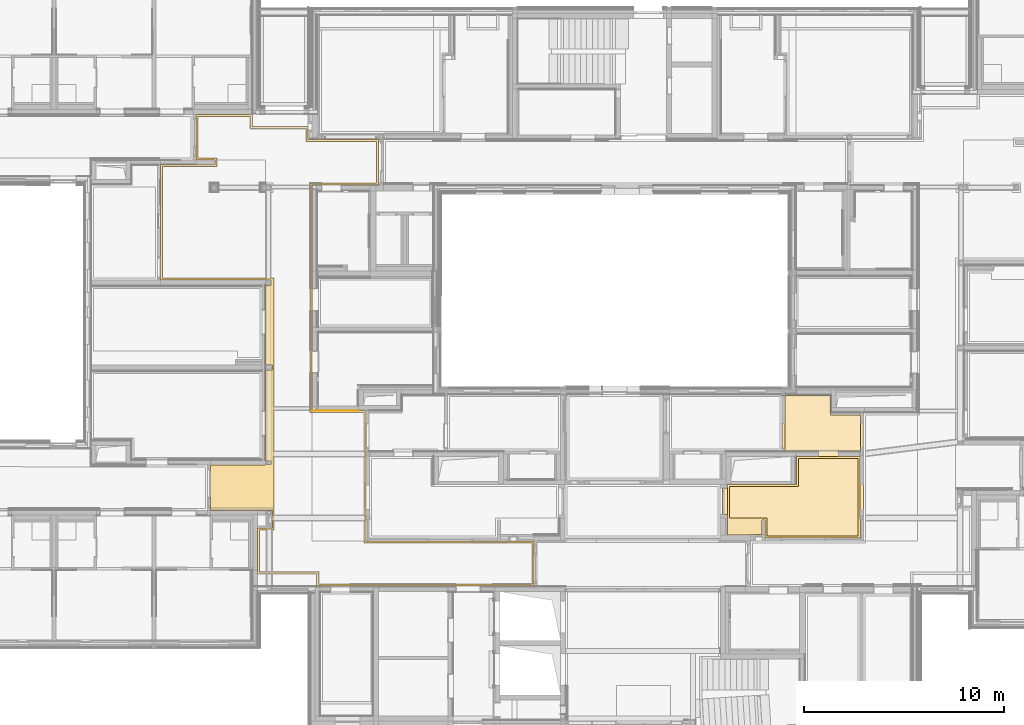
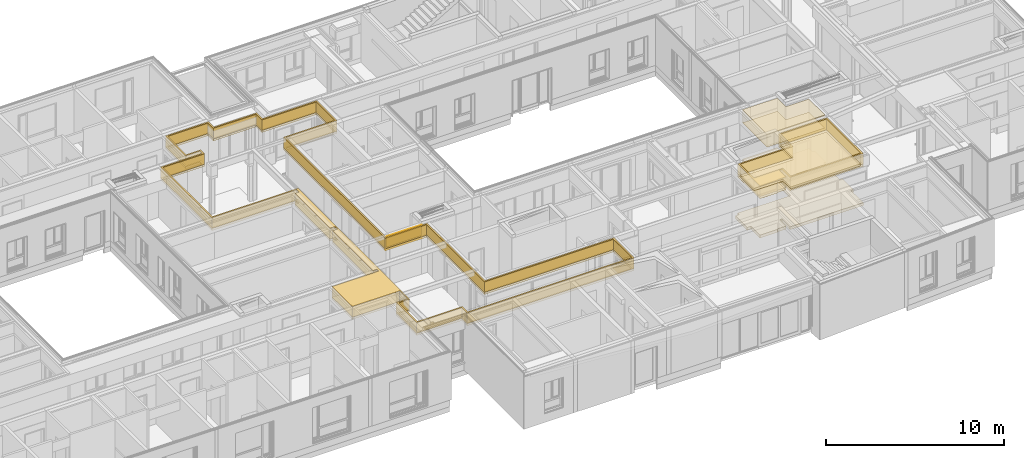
# One storey, part 169 of 207: 21 coverings.
"""IFC4 building model written with IfcOpenShell, lengths in metres."""

import ifcopenshell
import ifcopenshell.guid

model = None  # the IFC model being written
_history = None  # IfcOwnerHistory: only IFC2X3 demands one
_inside = {}  # id of a spatial element -> (the spatial element, [elements in it])
_under = {}  # id of a project, library or spatial element -> (it, [spatial elements below it])
_declared = {}  # id of a project -> (the project, [libraries it declares])
_typed = {}  # id of a type object -> (the type object, [elements of that type])
_made_of = {}  # id of a material, layer set ... -> (it, [elements and type objects made of it])


def new_model(schema):
    """Start an empty IFC model of exactly this schema.

    Asked for "IFC4X3", IfcOpenShell would pick the latest addendum, in which some entities
    have other attributes; the version numbers below select the first issue.
    IFC2X3 requires an IfcOwnerHistory on every rooted entity: one is made here for all.
    """
    global model, _history
    if schema == "IFC4X3":
        model = ifcopenshell.file(schema_version=(4, 3, 0, 0))
    else:
        model = ifcopenshell.file(schema=schema)
    _inside.clear()
    _under.clear()
    _declared.clear()
    _typed.clear()
    _made_of.clear()
    _history = None
    if model.schema == "IFC2X3":
        org = make("IfcOrganization", Name="unknown")
        user = make(
            "IfcPersonAndOrganization",
            ThePerson=make("IfcPerson", FamilyName="unknown"),
            TheOrganization=org,
        )
        app = make(
            "IfcApplication",
            ApplicationDeveloper=org,
            Version="unknown",
            ApplicationFullName="unknown",
            ApplicationIdentifier="unknown",
        )
        _history = make(
            "IfcOwnerHistory",
            OwningUser=user,
            OwningApplication=app,
            ChangeAction="ADDED",
            CreationDate=0,
        )
    return model


def make(cls, **values):
    """One entity of the class cls with the attributes given. An attribute that is None is left unset."""
    return model.create_entity(
        cls, **{name: value for name, value in values.items() if value is not None}
    )


def entity(cls, *values):
    """Any entity or typed value of the class cls, its attributes in the order of the schema. None: left unset."""
    e = model.create_entity(cls)
    for i, value in enumerate(values):
        if value is not None:
            e[i] = value
    return e


def rooted(cls, **values):
    """An entity with a GlobalId (a new one), such as an element, a storey or a relation."""
    return make(cls, GlobalId=ifcopenshell.guid.new(), OwnerHistory=_history, **values)


def si_unit(unit_type, name, prefix=None):
    """IfcSIUnit, for example si_unit("LENGTHUNIT", "METRE", prefix="MILLI")."""
    return make("IfcSIUnit", UnitType=unit_type, Prefix=prefix, Name=name)


def converted_unit(unit_type, name, factor, base, dimensions=None, offset=None):
    """IfcConversionBasedUnit, such as the inch: factor (a typed value) times the base unit."""
    return make(
        "IfcConversionBasedUnit"
        if offset is None
        else "IfcConversionBasedUnitWithOffset",
        ConversionOffset=offset,
        Dimensions=None
        if dimensions is None
        else entity("IfcDimensionalExponents", *dimensions),
        UnitType=unit_type,
        Name=name,
        ConversionFactor=make(
            "IfcMeasureWithUnit", ValueComponent=factor, UnitComponent=base
        ),
    )


def derived_unit(unit_type, elements):
    """IfcDerivedUnit: a product of units, each with its exponent."""
    return make(
        "IfcDerivedUnit",
        Elements=[
            make("IfcDerivedUnitElement", Unit=unit, Exponent=power)
            for unit, power in elements
        ],
        UnitType=unit_type,
    )


def assignment(units):
    """IfcUnitAssignment: the units of a project."""
    return None if units is None else make("IfcUnitAssignment", Units=units)


def point(xyz):
    """IfcCartesianPoint."""
    return None if xyz is None else make("IfcCartesianPoint", Coordinates=xyz)


def direction(xyz):
    """IfcDirection."""
    return None if xyz is None else make("IfcDirection", DirectionRatios=xyz)


def frame(location, z_axis=None, x_axis=None):
    """IfcAxis2Placement3D, a coordinate frame: its origin and axes. An axis left out is left unset."""
    return make(
        "IfcAxis2Placement3D",
        Location=point(location),
        Axis=direction(z_axis),
        RefDirection=direction(x_axis),
    )


def frame_2d(location, x_axis=None):
    """IfcAxis2Placement2D, a coordinate frame in the plane: its origin and x axis."""
    return make(
        "IfcAxis2Placement2D", Location=point(location), RefDirection=direction(x_axis)
    )


def origin():
    """The frame at (0, 0, 0) with its axes left unset."""
    return frame((0.0, 0.0, 0.0))


def place(relative_to, where):
    """IfcLocalPlacement: puts the frame where relative to a parent placement (None: the world)."""
    return make(
        "IfcLocalPlacement", PlacementRelTo=relative_to, RelativePlacement=where
    )


def context(
    kind, dimensions, precision=None, world=None, true_north=None, identifier=None
):
    """IfcGeometricRepresentationContext, for example the 3D "Model" context."""
    return make(
        "IfcGeometricRepresentationContext",
        ContextIdentifier=identifier,
        ContextType=kind,
        CoordinateSpaceDimension=dimensions,
        Precision=precision,
        WorldCoordinateSystem=world,
        TrueNorth=true_north,
    )


def subcontext(parent, identifier, kind, view, scale=None):
    """IfcGeometricRepresentationSubContext, for example "Body" below "Model"."""
    return make(
        "IfcGeometricRepresentationSubContext",
        ContextIdentifier=identifier,
        ContextType=kind,
        ParentContext=parent,
        TargetScale=scale,
        TargetView=view,
    )


def project(units=None, contexts=None):
    """IfcProject with its units and contexts."""
    return rooted(
        "IfcProject",
        Name="project",
        RepresentationContexts=contexts,
        UnitsInContext=assignment(units),
    )


def spatial(cls, under=None, at=None, **own):
    """A site, building, storey or space (cls), placed at a placement, below another one or the project."""
    s = rooted(cls, ObjectPlacement=at, **own)
    if under is not None:
        _under.setdefault(under.id(), (under, []))[1].append(s)
    return s


def polyline(points):
    """IfcPolyline through the points."""
    return make("IfcPolyline", Points=[point(p) for p in points])


def profile(cls, at=None, kind="AREA", **sizes):
    """A parametric profile (cls). Its sizes go by their IFC names, for example OverallWidth=200.0."""
    return make(cls, ProfileType=kind, Position=at, **sizes)


def rectangle(**sizes):
    """IfcRectangleProfileDef."""
    return profile("IfcRectangleProfileDef", **sizes)


def outline(outer, holes=None, kind="AREA"):
    """IfcArbitraryClosedProfileDef: a profile drawn as a closed curve; with holes, ...WithVoids."""
    if holes is None:
        return make("IfcArbitraryClosedProfileDef", ProfileType=kind, OuterCurve=outer)
    return make(
        "IfcArbitraryProfileDefWithVoids",
        ProfileType=kind,
        OuterCurve=outer,
        InnerCurves=holes,
    )


def extrude(swept, where, along, depth):
    """IfcExtrudedAreaSolid: the profile swept, set in the frame where, extruded along a direction by depth."""
    return make(
        "IfcExtrudedAreaSolid",
        SweptArea=swept,
        Position=where,
        ExtrudedDirection=direction(along),
        Depth=depth,
    )


def shape(context_of_items, identifier, shape_type, items):
    """IfcShapeRepresentation: the items that make up one representation, for example the "Body"."""
    return make(
        "IfcShapeRepresentation",
        ContextOfItems=context_of_items,
        RepresentationIdentifier=identifier,
        RepresentationType=shape_type,
        Items=items,
    )


def material(Name=None, Category=None):
    """IfcMaterial."""
    return make("IfcMaterial", Name=Name, Category=Category)


def layer(
    of_material, thickness, ventilated=None, Name=None, Category=None, Priority=None
):
    """IfcMaterialLayer: one layer of a wall or slab, of a material (None: an air gap)."""
    return make(
        "IfcMaterialLayer",
        Material=of_material,
        LayerThickness=thickness,
        IsVentilated=ventilated,
        Name=Name,
        Category=Category,
        Priority=Priority,
    )


def layer_set(layers, Name=None):
    """IfcMaterialLayerSet."""
    return make("IfcMaterialLayerSet", MaterialLayers=layers, LayerSetName=Name)


def layer_usage(for_layer_set, set_direction, sense, offset, extent=None):
    """IfcMaterialLayerSetUsage: how a layer set lies in its element."""
    return make(
        "IfcMaterialLayerSetUsage",
        ForLayerSet=for_layer_set,
        LayerSetDirection=set_direction,
        DirectionSense=sense,
        OffsetFromReferenceLine=offset,
        ReferenceExtent=extent,
    )


def made_of(thing, what):
    """Note that an element or type object is made of a material, layer set ...; save() writes the relation."""
    if what is not None:
        _made_of.setdefault(what.id(), (what, []))[1].append(thing)
    return thing


def element(
    cls,
    number,
    at=None,
    inside=None,
    cuts=None,
    type_object=None,
    material=None,
    context=None,
    identifier="Body",
    shape_type=None,
    held_by="IfcProductDefinitionShape",
    body=None,
    shapes=None,
    **own,
):
    """One element of the class cls, such as IfcWall. Its Tag is "e" and its number.

    at: its placement. inside: the storey or other place that contains it. cuts: it is an
    opening in that element (IfcRelVoidsElement). A single representation is given by context,
    identifier, shape_type and body (its items); several are given by shapes. held_by: the class
    of the entity that holds the representations. save() writes the other relations.
    """
    e = rooted(cls, Tag="e%d" % number, ObjectPlacement=at, **own)
    if body is not None:
        shapes = [shape(context, identifier, shape_type, body)]
    if shapes is not None:
        e.Representation = make(held_by, Representations=shapes)
    if inside is not None:
        _inside.setdefault(inside.id(), (inside, []))[1].append(e)
    if cuts is not None:
        rooted(
            "IfcRelVoidsElement", RelatingBuildingElement=cuts, RelatedOpeningElement=e
        )
    if type_object is not None:
        _typed.setdefault(type_object.id(), (type_object, []))[1].append(e)
    return made_of(e, material)


def aggregate(whole, parts):
    """IfcRelAggregates: a whole, such as a stair, and the parts it consists of."""
    return rooted("IfcRelAggregates", RelatingObject=whole, RelatedObjects=parts)


def save(model, path):
    """Write the relations noted so far, then the file.

    IfcRelAggregates (storeys below a building ...), IfcRelContainedInSpatialStructure (elements
    in a storey), IfcRelDefinesByType, IfcRelAssociatesMaterial and IfcRelDeclares: one each for
    every whole, place, type object, material and project.
    """
    for whole, parts in _under.values():
        aggregate(whole, parts)
    for where, things in _inside.values():
        rooted(
            "IfcRelContainedInSpatialStructure",
            RelatedElements=things,
            RelatingStructure=where,
        )
    for kind, things in _typed.values():
        rooted("IfcRelDefinesByType", RelatedObjects=things, RelatingType=kind)
    for what, things in _made_of.values():
        rooted("IfcRelAssociatesMaterial", RelatedObjects=things, RelatingMaterial=what)
    for by, libraries in _declared.values():
        rooted("IfcRelDeclares", RelatingContext=by, RelatedDefinitions=libraries)
    model.write(path)


model = new_model("IFC4")

# Units and contexts
model_context = context("Model", 3, precision=1e-05, world=origin())
body_context = subcontext(model_context, "Body", "Model", "MODEL_VIEW")
ifc_project = project(units=[si_unit("LENGTHUNIT", "METRE"), si_unit("AREAUNIT", "SQUARE_METRE"), si_unit("VOLUMEUNIT", "CUBIC_METRE"), si_unit("MASSUNIT", "GRAM", prefix="KILO"), converted_unit("PLANEANGLEUNIT", "DEGREE", entity("IfcPlaneAngleMeasure", 0.0174532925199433), si_unit("PLANEANGLEUNIT", "RADIAN"), dimensions=[0, 0, 0, 0, 0, 0, 0]), derived_unit("THERMALTRANSMITTANCEUNIT", [(si_unit("POWERUNIT", "WATT"), 1), (si_unit("THERMODYNAMICTEMPERATUREUNIT", "KELVIN"), -1), (si_unit("LENGTHUNIT", "METRE"), -2)]), derived_unit("VOLUMETRICFLOWRATEUNIT", [(si_unit("LENGTHUNIT", "METRE"), 3), (converted_unit("TIMEUNIT", "hour", entity("IfcTimeMeasure", 3600.0), si_unit("TIMEUNIT", "SECOND"), dimensions=[0, 0, 1, 0, 0, 0, 0]), -1), (si_unit("LENGTHUNIT", "METRE"), -1)])], contexts=[model_context])

# Site, building, storey, space
site_placement = place(None, origin())
site = spatial("IfcSite", under=ifc_project, at=site_placement, Name="Psychiatrie Neubau Wunstorf", CompositionType="ELEMENT")
building_placement = place(site_placement, origin())
building = spatial("IfcBuilding", under=site, at=building_placement, Name="Neubau H2 Stationsgebäude", CompositionType="ELEMENT")
storey_placement = place(building_placement, frame((0.0, 0.0, -0.2)))
storey = spatial("IfcBuildingStorey", under=building, at=storey_placement, Name="H2 Ebene 0", CompositionType="ELEMENT", Elevation=-0.2)
space_1_placement = place(storey_placement, frame((32.083, 0.549, 0.0)))
space_1 = spatial("IfcSpace", under=storey, at=space_1_placement, Name="WUN-H2-E00-F03", CompositionType="ELEMENT")

# Coverings
ifc_material_1 = material()
ifc_layer_1 = layer(ifc_material_1, 0.036)
ifc_layer_set_1 = layer_set([ifc_layer_1])
ifc_layer_usage_1 = layer_usage(ifc_layer_set_1, "AXIS3", "POSITIVE", 0.0)
covering_1_placement = place(space_1_placement, frame((-1.76615095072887, 0.0, 3.6)))
element("IfcCovering", 1, at=covering_1_placement, inside=space_1, material=ifc_layer_usage_1, Name="Gipsfaserplatten 2-lagig (BSK)", PredefinedType="CEILING", context=body_context, shape_type="SweptSolid", body=[
    extrude(outline(polyline([(4.94765095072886, 22.8675003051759), (7.88315095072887, 22.8675003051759), (7.88315095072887, 23.4684996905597), (18.5478509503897, 23.4684996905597), (18.5478509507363, 21.4000003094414), (10.1580859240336, 21.3999990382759), (10.1580859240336, 21.3000003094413), (18.6478509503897, 21.3000003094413), (18.6478509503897, 23.5685000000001), (7.78315095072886, 23.5685000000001), (7.78315095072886, 22.9675003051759), (4.84765095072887, 22.9675003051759), (4.84765095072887, 20.666750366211), (5.58414597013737, 20.666750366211), (5.58414597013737, 19.786750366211), (2.50165095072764, 19.786750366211), (2.50165095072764, 17.5055000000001), (5.25315095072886, 17.5055000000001), (5.25339557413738, 17.5005014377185), (5.51839059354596, 17.5005014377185), (5.51839059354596, 17.3205014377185), (5.25339557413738, 17.3205014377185), (5.25315095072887, 12.7799424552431), (5.58415095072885, 12.7799424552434), (5.58415095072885, 12.5079424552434), (5.25315095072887, 12.5079424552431), (5.25315095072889, 8.55700090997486), (5.51915095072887, 8.55700090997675), (5.51915095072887, 8.28500090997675), (0.0, 8.28500090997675), (0.0, 2.51350000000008), (2.71615095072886, 2.51350000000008), (2.71615095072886, 2.28150000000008), (1.76615095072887, 2.28150000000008), (1.76615095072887, 0.0), (4.57215095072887, 0.0), (4.57215095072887, 0.00349633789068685), (4.58315095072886, 0.00349633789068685), (4.58315095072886, 0.602500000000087), (7.36215095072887, 0.602500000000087), (7.36215095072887, 1.25350095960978), (10.8911509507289, 1.25350095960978), (10.8911509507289, 3.53150197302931), (7.56565095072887, 3.53150197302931), (7.56565095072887, 14.7935037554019), (10.2580859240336, 14.7950037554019), (10.2580859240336, 21.2999990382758), (10.1580859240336, 21.3000003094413), (10.1580859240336, 14.8950037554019), (7.46565095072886, 14.8935037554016), (7.46565095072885, 3.43150197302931), (10.7911509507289, 3.43150197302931), (10.7911509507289, 1.35350095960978), (7.26215095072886, 1.3535009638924), (7.26215095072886, 0.702500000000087), (4.48315095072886, 0.702500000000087), (4.48315095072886, 0.10000000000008), (1.86615095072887, 0.1), (1.86615095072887, 2.18149999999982), (2.81615095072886, 2.1814999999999), (2.81615095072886, 2.61151695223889), (0.1, 2.61151695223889), (0.1, 8.18500090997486), (5.66915095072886, 8.18500090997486), (5.66915095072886, 20.766750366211), (4.94765095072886, 20.766750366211), (4.94765095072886, 22.8675003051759)])), frame((0.0, 23.5685000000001, 0.0), z_axis=(0.0, 0.0, -1.0), x_axis=(1.0, 0.0, 0.0)), (0.0, 0.0, 1.0), 0.036),
])
ifc_material_2 = material(Name="Installationshöhe")
ifc_layer_2 = layer(ifc_material_2, 0.714)
ifc_layer_set_2 = layer_set([ifc_layer_2])
ifc_layer_usage_2 = layer_usage(ifc_layer_set_2, "AXIS3", "POSITIVE", 0.0)
covering_2_placement = place(space_1_placement, frame((-1.76615095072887, 0.0, 3.564)))
element("IfcCovering", 2, at=covering_2_placement, inside=space_1, material=ifc_layer_usage_2, Name="Gipsfaserplatten 2-lagig (BSK)", PredefinedType="CEILING", context=body_context, shape_type="SweptSolid", body=[
    extrude(outline(polyline([(4.94765095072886, 22.8675003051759), (7.88315095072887, 22.8675003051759), (7.88315095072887, 23.4684996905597), (18.5478509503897, 23.4684996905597), (18.5478509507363, 21.4000003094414), (10.1580859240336, 21.3999990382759), (10.1580859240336, 21.3000003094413), (18.6478509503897, 21.3000003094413), (18.6478509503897, 23.5685000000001), (7.78315095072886, 23.5685000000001), (7.78315095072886, 22.9675003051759), (4.84765095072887, 22.9675003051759), (4.84765095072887, 20.666750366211), (5.58414597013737, 20.666750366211), (5.58414597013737, 19.786750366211), (2.50165095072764, 19.786750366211), (2.50165095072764, 17.5055000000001), (5.25315095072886, 17.5055000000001), (5.25339557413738, 17.5005014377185), (5.51839059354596, 17.5005014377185), (5.51839059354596, 17.3205014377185), (5.25339557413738, 17.3205014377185), (5.25315095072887, 12.7799424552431), (5.58415095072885, 12.7799424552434), (5.58415095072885, 12.5079424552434), (5.25315095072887, 12.5079424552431), (5.25315095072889, 8.55700090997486), (5.51915095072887, 8.55700090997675), (5.51915095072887, 8.28500090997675), (0.0, 8.28500090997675), (0.0, 2.51350000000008), (2.71615095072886, 2.51350000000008), (2.71615095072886, 2.28150000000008), (1.76615095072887, 2.28150000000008), (1.76615095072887, 0.0), (4.57215095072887, 0.0), (4.57215095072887, 0.00349633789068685), (4.58315095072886, 0.00349633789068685), (4.58315095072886, 0.602500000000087), (7.36215095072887, 0.602500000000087), (7.36215095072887, 1.25350095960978), (10.8911509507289, 1.25350095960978), (10.8911509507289, 3.53150197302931), (7.56565095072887, 3.53150197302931), (7.56565095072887, 14.7935037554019), (10.2580859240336, 14.7950037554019), (10.2580859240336, 21.2999990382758), (10.1580859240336, 21.3000003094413), (10.1580859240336, 14.8950037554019), (7.46565095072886, 14.8935037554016), (7.46565095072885, 3.43150197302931), (10.7911509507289, 3.43150197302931), (10.7911509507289, 1.35350095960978), (7.26215095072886, 1.3535009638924), (7.26215095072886, 0.702500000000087), (4.48315095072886, 0.702500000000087), (4.48315095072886, 0.10000000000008), (1.86615095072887, 0.1), (1.86615095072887, 2.18149999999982), (2.81615095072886, 2.1814999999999), (2.81615095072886, 2.61151695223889), (0.1, 2.61151695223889), (0.1, 8.18500090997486), (5.66915095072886, 8.18500090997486), (5.66915095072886, 20.766750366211), (4.94765095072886, 20.766750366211), (4.94765095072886, 22.8675003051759)])), frame((0.0, 23.5685000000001, 0.0), z_axis=(0.0, 0.0, -1.0), x_axis=(1.0, 0.0, 0.0)), (0.0, 0.0, 1.0), 0.714),
])
ifc_material_3 = material(Name="A1")
ifc_layer_3 = layer(ifc_material_3, 0.15)
ifc_layer_set_3 = layer_set([ifc_layer_3])
ifc_layer_usage_3 = layer_usage(ifc_layer_set_3, "AXIS3", "POSITIVE", 0.0)
covering_3_placement = place(space_1_placement, frame((-1.76615095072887, 0.0, 2.85)))
element("IfcCovering", 3, at=covering_3_placement, inside=space_1, material=ifc_layer_usage_3, Name="Gipsfaserplatten 2-lagig (BSK)", PredefinedType="CEILING", context=body_context, shape_type="SweptSolid", body=[
    extrude(outline(polyline([(4.94765095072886, 22.8675003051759), (7.88315095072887, 22.8675003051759), (7.88315095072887, 23.4684996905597), (18.5478509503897, 23.4684996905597), (18.5478509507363, 21.4000003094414), (10.1580859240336, 21.3999990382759), (10.1580859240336, 21.3000003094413), (18.6478509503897, 21.3000003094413), (18.6478509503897, 23.5685000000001), (7.78315095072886, 23.5685000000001), (7.78315095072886, 22.9675003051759), (4.84765095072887, 22.9675003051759), (4.84765095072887, 20.666750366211), (5.58414597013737, 20.666750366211), (5.58414597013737, 19.786750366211), (2.50165095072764, 19.786750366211), (2.50165095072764, 17.5055000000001), (5.25315095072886, 17.5055000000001), (5.25339557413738, 17.5005014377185), (5.51839059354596, 17.5005014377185), (5.51839059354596, 17.3205014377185), (5.25339557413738, 17.3205014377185), (5.25315095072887, 12.7799424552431), (5.58415095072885, 12.7799424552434), (5.58415095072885, 12.5079424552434), (5.25315095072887, 12.5079424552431), (5.25315095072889, 8.55700090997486), (5.51915095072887, 8.55700090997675), (5.51915095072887, 8.28500090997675), (0.0, 8.28500090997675), (0.0, 2.51350000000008), (2.71615095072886, 2.51350000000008), (2.71615095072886, 2.28150000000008), (1.76615095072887, 2.28150000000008), (1.76615095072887, 0.0), (4.57215095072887, 0.0), (4.57215095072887, 0.00349633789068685), (4.58315095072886, 0.00349633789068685), (4.58315095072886, 0.602500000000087), (7.36215095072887, 0.602500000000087), (7.36215095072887, 1.25350095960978), (10.8911509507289, 1.25350095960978), (10.8911509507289, 3.53150197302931), (7.56565095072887, 3.53150197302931), (7.56565095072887, 14.7935037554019), (10.2580859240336, 14.7950037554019), (10.2580859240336, 21.2999990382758), (10.1580859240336, 21.3000003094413), (10.1580859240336, 14.8950037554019), (7.46565095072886, 14.8935037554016), (7.46565095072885, 3.43150197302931), (10.7911509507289, 3.43150197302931), (10.7911509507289, 1.35350095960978), (7.26215095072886, 1.3535009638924), (7.26215095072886, 0.702500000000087), (4.48315095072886, 0.702500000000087), (4.48315095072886, 0.10000000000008), (1.86615095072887, 0.1), (1.86615095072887, 2.18149999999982), (2.81615095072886, 2.1814999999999), (2.81615095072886, 2.61151695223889), (0.1, 2.61151695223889), (0.1, 8.18500090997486), (5.66915095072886, 8.18500090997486), (5.66915095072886, 20.766750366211), (4.94765095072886, 20.766750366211), (4.94765095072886, 22.8675003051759)])), frame((0.0, 23.5685000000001, 0.0), z_axis=(0.0, 0.0, -1.0), x_axis=(1.0, 0.0, 0.0)), (0.0, 0.0, 1.0), 0.15),
])

# Space
space_2_placement = place(storey_placement, frame((58.625000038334, 2.96762600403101, 0.0)))
space_2 = spatial("IfcSpace", under=storey, at=space_2_placement, Name="WUN-H2-E00-063", CompositionType="ELEMENT")

# Coverings
ifc_material_4 = material(Name="Ku1")
ifc_layer_4 = layer(ifc_material_4, 0.2)
ifc_layer_set_4 = layer_set([ifc_layer_4])
ifc_layer_usage_4 = layer_usage(ifc_layer_set_4, "AXIS3", "POSITIVE", 0.0)
covering_4_placement = place(space_2_placement, frame((-0.249999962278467, 0.0, 0.0)))
element("IfcCovering", 4, at=covering_4_placement, inside=space_2, material=ifc_layer_usage_4, Name="PVC Bahnenware Holzoptik", PredefinedType="FLOORING", context=body_context, shape_type="SweptSolid", body=[
    extrude(rectangle(XDim=0.272, YDim=1.01, at=frame_2d((-0.505, 0.136), x_axis=(0.0, 1.0))), frame((5.80999993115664, 4.05537368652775, 0.0), z_axis=(0.0, 0.0, 1.0), x_axis=(1.0, 0.0, 0.0)), (0.0, 0.0, 1.0), 0.2),
    extrude(rectangle(XDim=0.250000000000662, YDim=1.32502470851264, at=frame_2d((0.125000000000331, 0.66251235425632), x_axis=(1.0, 0.0))), frame((0.0, 1.15485125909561, 0.0), z_axis=(0.0, 0.0, 1.0), x_axis=(1.0, 0.0, 0.0)), (0.0, 0.0, 1.0), 0.2),
    extrude(rectangle(XDim=0.175, YDim=1.26, at=frame_2d((0.0875, 0.63), x_axis=(1.0, 0.0))), frame((6.8749962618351, 1.38987368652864, 0.0), z_axis=(0.0, 0.0, 1.0), x_axis=(1.0, 0.0, 0.0)), (0.0, 0.0, 1.0), 0.2),
    extrude(outline(polyline([(6.61999629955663, 1.08237094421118), (6.62499629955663, 1.08237094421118), (6.62499629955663, 4.05537180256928), (3.45499960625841, 4.05537368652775), (3.45499960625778, 2.64987368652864), (0.0, 2.64990497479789), (0.0, 0.139904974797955), (1.14683874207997, 0.140003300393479), (1.14688129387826, 0.17500329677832), (1.72499996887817, 0.174883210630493), (1.72499996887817, 0.9), (1.87499996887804, 0.9), (1.87499996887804, 0.0), (6.64999629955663, 0.0), (6.65007963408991, 0.902370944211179), (6.61999629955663, 0.902370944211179), (6.61999629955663, 1.08237094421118)])), frame((0.249999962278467, 0.0, 0.0), z_axis=(0.0, 0.0, 1.0), x_axis=(1.0, 0.0, 0.0)), (0.0, 0.0, 1.0), 0.2),
])
ifc_material_5 = material()
ifc_layer_5 = layer(ifc_material_5, 0.036)
ifc_layer_set_5 = layer_set([ifc_layer_5])
ifc_layer_usage_5 = layer_usage(ifc_layer_set_5, "AXIS3", "POSITIVE", 0.0)
covering_5_placement = place(space_2_placement, frame((0.100000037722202, 0.0999699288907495, 3.6)))
element("IfcCovering", 5, at=covering_5_placement, inside=space_2, material=ifc_layer_usage_5, Name="Gipsfaserplatten 2-lagig (BSK)", PredefinedType="CEILING", context=body_context, shape_type="SweptSolid", body=[
    extrude(outline(polyline([(6.42449259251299, 3.85538799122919), (1.87449882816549, 3.855403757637), (1.87503364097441, 2.96559333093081), (0.0, 2.96559333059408), (0.0, 1.4055031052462), (3.45499956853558, 1.40549999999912), (3.45499956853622, 0.0), (6.42499626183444, 1.61886599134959e-05), (6.42449259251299, 3.85538799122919)])), frame((0.0, 3.855403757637, 0.0), z_axis=(0.0, 0.0, -1.0), x_axis=(1.0, 0.0, 0.0)), (0.0, 0.0, 1.0), 0.036),
])
ifc_material_6 = material(Name="Installationshöhe")
ifc_layer_6 = layer(ifc_material_6, 0.714)
ifc_layer_set_6 = layer_set([ifc_layer_6])
ifc_layer_usage_6 = layer_usage(ifc_layer_set_6, "AXIS3", "POSITIVE", 0.0)
covering_6_placement = place(space_2_placement, frame((0.100000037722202, 0.0999699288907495, 3.564)))
element("IfcCovering", 6, at=covering_6_placement, inside=space_2, material=ifc_layer_usage_6, Name="Gipsfaserplatten 2-lagig (BSK)", PredefinedType="CEILING", context=body_context, shape_type="SweptSolid", body=[
    extrude(outline(polyline([(6.42449259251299, 3.85538799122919), (1.87449882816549, 3.855403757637), (1.87503364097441, 2.96559333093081), (0.0, 2.96559333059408), (0.0, 1.4055031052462), (3.45499956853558, 1.40549999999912), (3.45499956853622, 0.0), (6.42499626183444, 1.61886599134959e-05), (6.42449259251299, 3.85538799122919)])), frame((0.0, 3.855403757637, 0.0), z_axis=(0.0, 0.0, -1.0), x_axis=(1.0, 0.0, 0.0)), (0.0, 0.0, 1.0), 0.714),
])
ifc_material_7 = material(Name="Aa")
ifc_layer_7 = layer(ifc_material_7, 0.15)
ifc_layer_set_7 = layer_set([ifc_layer_7])
ifc_layer_usage_7 = layer_usage(ifc_layer_set_7, "AXIS3", "POSITIVE", 0.0)
covering_7_placement = place(space_2_placement, frame((0.100000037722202, 0.0999699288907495, 2.85)))
element("IfcCovering", 7, at=covering_7_placement, inside=space_2, material=ifc_layer_usage_7, Name="Gipsfaserplatten 2-lagig (BSK)", PredefinedType="CEILING", context=body_context, shape_type="SweptSolid", body=[
    extrude(outline(polyline([(6.42449259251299, 3.85538799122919), (1.87449882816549, 3.855403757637), (1.87503364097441, 2.96559333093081), (0.0, 2.96559333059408), (0.0, 1.4055031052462), (3.45499956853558, 1.40549999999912), (3.45499956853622, 0.0), (6.42499626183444, 1.61886599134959e-05), (6.42449259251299, 3.85538799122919)])), frame((0.0, 3.855403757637, 0.0), z_axis=(0.0, 0.0, -1.0), x_axis=(1.0, 0.0, 0.0)), (0.0, 0.0, 1.0), 0.15),
])
ifc_material_8 = material(Name="D1")
ifc_layer_8 = layer(ifc_material_8, 0.001)
ifc_layer_set_8 = layer_set([ifc_layer_8])
ifc_layer_usage_8 = layer_usage(ifc_layer_set_8, "AXIS3", "POSITIVE", 0.0)
covering_8_placement = place(space_2_placement, frame((0.100000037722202, 0.0999699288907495, 2.7)))
element("IfcCovering", 8, at=covering_8_placement, inside=space_2, material=ifc_layer_usage_8, Name="Gipsfaserplatten 2-lagig (BSK)", PredefinedType="CEILING", context=body_context, shape_type="SweptSolid", body=[
    extrude(outline(polyline([(6.42449259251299, 3.85538799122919), (1.87449882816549, 3.855403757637), (1.87503364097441, 2.96559333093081), (0.0, 2.96559333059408), (0.0, 1.4055031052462), (3.45499956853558, 1.40549999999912), (3.45499956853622, 0.0), (6.42499626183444, 1.61886599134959e-05), (6.42449259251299, 3.85538799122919)])), frame((0.0, 3.855403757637, 0.0), z_axis=(0.0, 0.0, -1.0), x_axis=(1.0, 0.0, 0.0)), (0.0, 0.0, 1.0), 0.001),
])
ifc_material_9 = material()
ifc_layer_9 = layer(ifc_material_9, 0.036)
ifc_layer_set_9 = layer_set([ifc_layer_9])
ifc_layer_usage_9 = layer_usage(ifc_layer_set_9, "AXIS3", "POSITIVE", 0.0)
covering_9_placement = place(space_2_placement, frame((0.0, 0.0, 3.6)))
element("IfcCovering", 9, at=covering_9_placement, inside=space_2, material=ifc_layer_usage_9, Name="Gipsfaserplatten 2-lagig (BSK)", PredefinedType="CEILING", context=body_context, shape_type="SweptSolid", body=[
    extrude(outline(polyline([(6.62499629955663, 2.97300274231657), (6.61999629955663, 2.97300274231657), (6.61999629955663, 3.15300274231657), (6.65007963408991, 3.15300274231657), (6.64999629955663, 4.05537368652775), (1.87499996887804, 4.05537368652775), (1.87499996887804, 3.15537368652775), (1.72499996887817, 3.15537368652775), (1.72499996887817, 3.88049047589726), (1.14688129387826, 3.88037038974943), (1.14683874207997, 3.91537038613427), (0.0, 3.9154687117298), (0.0, 1.40546871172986), (3.45499960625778, 1.40549999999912), (3.45499960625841, 0.0), (6.62499629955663, 1.88395847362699e-06), (6.62499629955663, 2.97300274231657)]), holes=[polyline([(1.97449886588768, 3.955403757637), (6.52449263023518, 3.95538799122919), (6.52499629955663, 0.100016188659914), (3.55499960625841, 0.1), (3.55499960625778, 1.50549999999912), (0.100000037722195, 1.5055031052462), (0.100000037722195, 3.06559333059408), (1.97503367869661, 3.06559333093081), (1.97449886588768, 3.955403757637)])]), frame((0.0, 4.05537368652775, 0.0), z_axis=(0.0, 0.0, -1.0), x_axis=(1.0, 0.0, 0.0)), (0.0, 0.0, 1.0), 0.036),
])
ifc_material_10 = material(Name="Installationshöhe")
ifc_layer_10 = layer(ifc_material_10, 0.714)
ifc_layer_set_10 = layer_set([ifc_layer_10])
ifc_layer_usage_10 = layer_usage(ifc_layer_set_10, "AXIS3", "POSITIVE", 0.0)
covering_10_placement = place(space_2_placement, frame((0.0, 0.0, 3.564)))
element("IfcCovering", 10, at=covering_10_placement, inside=space_2, material=ifc_layer_usage_10, Name="Gipsfaserplatten 2-lagig (BSK)", PredefinedType="CEILING", context=body_context, shape_type="SweptSolid", body=[
    extrude(outline(polyline([(6.62499629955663, 2.97300274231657), (6.61999629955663, 2.97300274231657), (6.61999629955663, 3.15300274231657), (6.65007963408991, 3.15300274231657), (6.64999629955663, 4.05537368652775), (1.87499996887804, 4.05537368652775), (1.87499996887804, 3.15537368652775), (1.72499996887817, 3.15537368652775), (1.72499996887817, 3.88049047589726), (1.14688129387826, 3.88037038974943), (1.14683874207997, 3.91537038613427), (0.0, 3.9154687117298), (0.0, 1.40546871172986), (3.45499960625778, 1.40549999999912), (3.45499960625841, 0.0), (6.62499629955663, 1.88395847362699e-06), (6.62499629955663, 2.97300274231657)]), holes=[polyline([(1.97449886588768, 3.955403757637), (6.52449263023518, 3.95538799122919), (6.52499629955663, 0.100016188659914), (3.55499960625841, 0.1), (3.55499960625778, 1.50549999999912), (0.100000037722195, 1.5055031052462), (0.100000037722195, 3.06559333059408), (1.97503367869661, 3.06559333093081), (1.97449886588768, 3.955403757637)])]), frame((0.0, 4.05537368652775, 0.0), z_axis=(0.0, 0.0, -1.0), x_axis=(1.0, 0.0, 0.0)), (0.0, 0.0, 1.0), 0.714),
])
ifc_material_11 = material(Name="A1")
ifc_layer_11 = layer(ifc_material_11, 0.15)
ifc_layer_set_11 = layer_set([ifc_layer_11])
ifc_layer_usage_11 = layer_usage(ifc_layer_set_11, "AXIS3", "POSITIVE", 0.0)
covering_11_placement = place(space_2_placement, frame((0.0, 0.0, 2.85)))
element("IfcCovering", 11, at=covering_11_placement, inside=space_2, material=ifc_layer_usage_11, Name="Gipsfaserplatten 2-lagig (BSK)", PredefinedType="CEILING", context=body_context, shape_type="SweptSolid", body=[
    extrude(outline(polyline([(6.62499629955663, 2.97300274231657), (6.61999629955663, 2.97300274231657), (6.61999629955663, 3.15300274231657), (6.65007963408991, 3.15300274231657), (6.64999629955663, 4.05537368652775), (1.87499996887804, 4.05537368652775), (1.87499996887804, 3.15537368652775), (1.72499996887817, 3.15537368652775), (1.72499996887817, 3.88049047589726), (1.14688129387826, 3.88037038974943), (1.14683874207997, 3.91537038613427), (0.0, 3.9154687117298), (0.0, 1.40546871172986), (3.45499960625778, 1.40549999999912), (3.45499960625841, 0.0), (6.62499629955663, 1.88395847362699e-06), (6.62499629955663, 2.97300274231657)]), holes=[polyline([(1.97449886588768, 3.955403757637), (6.52449263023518, 3.95538799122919), (6.52499629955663, 0.100016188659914), (3.55499960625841, 0.1), (3.55499960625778, 1.50549999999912), (0.100000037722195, 1.5055031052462), (0.100000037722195, 3.06559333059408), (1.97503367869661, 3.06559333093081), (1.97449886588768, 3.955403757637)])]), frame((0.0, 4.05537368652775, 0.0), z_axis=(0.0, 0.0, -1.0), x_axis=(1.0, 0.0, 0.0)), (0.0, 0.0, 1.0), 0.15),
])
ifc_material_12 = material(Name="D1")
ifc_layer_12 = layer(ifc_material_12, 0.001)
ifc_layer_set_12 = layer_set([ifc_layer_12])
ifc_layer_usage_12 = layer_usage(ifc_layer_set_12, "AXIS3", "POSITIVE", 0.0)
covering_12_placement = place(space_2_placement, frame((0.0, 0.0, 2.7)))
element("IfcCovering", 12, at=covering_12_placement, inside=space_2, material=ifc_layer_usage_12, Name="Gipsfaserplatten 2-lagig (BSK)", PredefinedType="CEILING", context=body_context, shape_type="SweptSolid", body=[
    extrude(outline(polyline([(6.62499629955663, 2.97300274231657), (6.61999629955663, 2.97300274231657), (6.61999629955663, 3.15300274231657), (6.65007963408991, 3.15300274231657), (6.64999629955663, 4.05537368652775), (1.87499996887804, 4.05537368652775), (1.87499996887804, 3.15537368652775), (1.72499996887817, 3.15537368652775), (1.72499996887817, 3.88049047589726), (1.14688129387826, 3.88037038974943), (1.14683874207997, 3.91537038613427), (0.0, 3.9154687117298), (0.0, 1.40546871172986), (3.45499960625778, 1.40549999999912), (3.45499960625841, 0.0), (6.62499629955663, 1.88395847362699e-06), (6.62499629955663, 2.97300274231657)]), holes=[polyline([(1.97449886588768, 3.955403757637), (6.52449263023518, 3.95538799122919), (6.52499629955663, 0.100016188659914), (3.55499960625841, 0.1), (3.55499960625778, 1.50549999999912), (0.100000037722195, 1.5055031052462), (0.100000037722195, 3.06559333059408), (1.97503367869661, 3.06559333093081), (1.97449886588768, 3.955403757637)])]), frame((0.0, 4.05537368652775, 0.0), z_axis=(0.0, 0.0, -1.0), x_axis=(1.0, 0.0, 0.0)), (0.0, 0.0, 1.0), 0.001),
])

# Space
space_3_placement = place(storey_placement, frame((37.8825, 2.81749969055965, 0.0)))
space_3 = spatial("IfcSpace", under=storey, at=space_3_placement, Name="WUN-H2-E00-F03b", CompositionType="ELEMENT")

# Coverings
ifc_material_13 = material()
ifc_layer_13 = layer(ifc_material_13, 0.036)
ifc_layer_set_13 = layer_set([ifc_layer_13])
ifc_layer_usage_13 = layer_usage(ifc_layer_set_13, "AXIS3", "POSITIVE", 0.0)
covering_13_placement = place(space_3_placement, frame((0.0, 6.50520546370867, 3.6)))
element("IfcCovering", 13, at=covering_13_placement, inside=space_3, material=ifc_layer_usage_13, Name="Gipsfaserplatten 2-lagig (BSK)", PredefinedType="CEILING", context=body_context, shape_type="SweptSolid", body=[
    extrude(outline(polyline([(0.0, 0.0), (2.317451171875, 0.0), (2.317451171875, 0.00129109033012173), (0.0, 0.0)])), frame((0.0, 0.00129109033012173, 0.0), z_axis=(0.0, 0.0, -1.0), x_axis=(1.0, 0.0, 0.0)), (0.0, 0.0, 1.0), 0.036),
])
ifc_material_14 = material(Name="Installationshöhe")
ifc_layer_14 = layer(ifc_material_14, 0.714)
ifc_layer_set_14 = layer_set([ifc_layer_14])
ifc_layer_usage_14 = layer_usage(ifc_layer_set_14, "AXIS3", "POSITIVE", 0.0)
covering_14_placement = place(space_3_placement, frame((0.0, 6.50520546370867, 3.564)))
element("IfcCovering", 14, at=covering_14_placement, inside=space_3, material=ifc_layer_usage_14, Name="Gipsfaserplatten 2-lagig (BSK)", PredefinedType="CEILING", context=body_context, shape_type="SweptSolid", body=[
    extrude(outline(polyline([(0.0, 0.0), (2.317451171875, 0.0), (2.317451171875, 0.00129109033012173), (0.0, 0.0)])), frame((0.0, 0.00129109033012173, 0.0), z_axis=(0.0, 0.0, -1.0), x_axis=(1.0, 0.0, 0.0)), (0.0, 0.0, 1.0), 0.714),
])
ifc_material_15 = material(Name="A1")
ifc_layer_15 = layer(ifc_material_15, 0.15)
ifc_layer_set_15 = layer_set([ifc_layer_15])
ifc_layer_usage_15 = layer_usage(ifc_layer_set_15, "AXIS3", "POSITIVE", 0.0)
covering_15_placement = place(space_3_placement, frame((0.0, 6.50520546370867, 2.85)))
element("IfcCovering", 15, at=covering_15_placement, inside=space_3, material=ifc_layer_usage_15, Name="Gipsfaserplatten 2-lagig (BSK)", PredefinedType="CEILING", context=body_context, shape_type="SweptSolid", body=[
    extrude(outline(polyline([(0.0, 0.0), (2.317451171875, 0.0), (2.317451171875, 0.00129109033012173), (0.0, 0.0)])), frame((0.0, 0.00129109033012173, 0.0), z_axis=(0.0, 0.0, -1.0), x_axis=(1.0, 0.0, 0.0)), (0.0, 0.0, 1.0), 0.15),
])
ifc_material_16 = material(Name="D1")
ifc_layer_16 = layer(ifc_material_16, 0.001)
ifc_layer_set_16 = layer_set([ifc_layer_16])
ifc_layer_usage_16 = layer_usage(ifc_layer_set_16, "AXIS3", "POSITIVE", 0.0)
covering_16_placement = place(space_3_placement, frame((0.0, 6.50520546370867, 2.7)))
element("IfcCovering", 16, at=covering_16_placement, inside=space_3, material=ifc_layer_usage_16, Name="Gipsfaserplatten 2-lagig (BSK)", PredefinedType="CEILING", context=body_context, shape_type="SweptSolid", body=[
    extrude(outline(polyline([(0.0, 0.0), (2.317451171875, 0.0), (2.317451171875, 0.00129109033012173), (0.0, 0.0)])), frame((0.0, 0.00129109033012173, 0.0), z_axis=(0.0, 0.0, -1.0), x_axis=(1.0, 0.0, 0.0)), (0.0, 0.0, 1.0), 0.001),
])

# Space
space_4_placement = place(storey_placement, frame((61.5, 7.29499963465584, 0.0)))
space_4 = spatial("IfcSpace", under=storey, at=space_4_placement, Name="WUN-H2-E00-064", CompositionType="ELEMENT")

# Coverings
ifc_material_17 = material(Name="Ku1")
ifc_layer_17 = layer(ifc_material_17, 0.2)
ifc_layer_set_17 = layer_set([ifc_layer_17])
ifc_layer_usage_17 = layer_usage(ifc_layer_set_17, "AXIS3", "POSITIVE", 0.0)
covering_17_placement = place(space_4_placement, frame((-0.15, 0.0, 0.0)))
element("IfcCovering", 17, at=covering_17_placement, inside=space_4, material=ifc_layer_usage_17, Name="PVC Bahnenware Holzoptik", PredefinedType="FLOORING", context=body_context, shape_type="SweptSolid", body=[
    extrude(rectangle(XDim=0.15, YDim=1.26, at=frame_2d((-0.075, -0.63), x_axis=(-1.0, 0.0))), frame((4.07499633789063, 1.42669606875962, 0.0), z_axis=(0.0, 0.0, 1.0), x_axis=(1.0, 0.0, 0.0)), (0.0, 0.0, 1.0), 0.2),
    extrude(rectangle(XDim=0.15, YDim=1.26, at=frame_2d((0.075, 0.63), x_axis=(1.0, 0.0))), frame((0.0, 0.130000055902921, 0.0), z_axis=(0.0, 0.0, 1.0), x_axis=(1.0, 0.0, 0.0)), (0.0, 0.0, 1.0), 0.2),
    extrude(outline(polyline([(0.0, 2.77900005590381), (0.0, 5.59029222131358e-08), (3.77499633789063, 0.0), (3.77499633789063, 1.81500005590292), (2.28000036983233, 1.81500005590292), (2.28000036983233, 2.77900005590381), (0.0, 2.77900005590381)])), frame((0.15, 0.0, 0.0), z_axis=(0.0, 0.0, 1.0), x_axis=(1.0, 0.0, 0.0)), (0.0, 0.0, 1.0), 0.2),
])
ifc_material_18 = material()
ifc_layer_18 = layer(ifc_material_18, 0.036)
ifc_layer_set_18 = layer_set([ifc_layer_18])
ifc_layer_usage_18 = layer_usage(ifc_layer_set_18, "AXIS3", "POSITIVE", 0.0)
covering_18_placement = place(space_4_placement, frame((0.0, 0.0, 3.6)))
element("IfcCovering", 18, at=covering_18_placement, inside=space_4, material=ifc_layer_usage_18, Name="Gipsfaserplatten 2-lagig (BSK)", PredefinedType="CEILING", context=body_context, shape_type="SweptSolid", body=[
    extrude(outline(polyline([(0.0, 2.77900000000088), (0.0, 0.0), (2.28000036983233, 0.0), (2.28000036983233, 0.964000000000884), (3.77499633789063, 0.964000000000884), (3.77499633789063, 2.77900005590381), (0.0, 2.77900000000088)])), frame((0.0, 2.77900005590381, 0.0), z_axis=(0.0, 0.0, -1.0), x_axis=(1.0, 0.0, 0.0)), (0.0, 0.0, 1.0), 0.036),
])
ifc_material_19 = material(Name="Installationshöhe")
ifc_layer_19 = layer(ifc_material_19, 0.764)
ifc_layer_set_19 = layer_set([ifc_layer_19])
ifc_layer_usage_19 = layer_usage(ifc_layer_set_19, "AXIS3", "POSITIVE", 0.0)
covering_19_placement = place(space_4_placement, frame((0.0, 0.0, 3.564)))
element("IfcCovering", 19, at=covering_19_placement, inside=space_4, material=ifc_layer_usage_19, Name="Gipsfaserplatten 2-lagig (BSK)", PredefinedType="CEILING", context=body_context, shape_type="SweptSolid", body=[
    extrude(outline(polyline([(0.0, 2.77900000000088), (0.0, 0.0), (2.28000036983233, 0.0), (2.28000036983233, 0.964000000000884), (3.77499633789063, 0.964000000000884), (3.77499633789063, 2.77900005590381), (0.0, 2.77900000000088)])), frame((0.0, 2.77900005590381, 0.0), z_axis=(0.0, 0.0, -1.0), x_axis=(1.0, 0.0, 0.0)), (0.0, 0.0, 1.0), 0.764),
])
ifc_material_20 = material(Name="A1")
ifc_layer_20 = layer(ifc_material_20, 0.1)
ifc_layer_set_20 = layer_set([ifc_layer_20])
ifc_layer_usage_20 = layer_usage(ifc_layer_set_20, "AXIS3", "POSITIVE", 0.0)
covering_20_placement = place(space_4_placement, frame((0.0, 0.0, 2.8)))
element("IfcCovering", 20, at=covering_20_placement, inside=space_4, material=ifc_layer_usage_20, Name="Gipsfaserplatten 2-lagig (BSK)", PredefinedType="CEILING", context=body_context, shape_type="SweptSolid", body=[
    extrude(outline(polyline([(0.0, 2.77900000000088), (0.0, 0.0), (2.28000036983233, 0.0), (2.28000036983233, 0.964000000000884), (3.77499633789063, 0.964000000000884), (3.77499633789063, 2.77900005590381), (0.0, 2.77900000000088)])), frame((0.0, 2.77900005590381, 0.0), z_axis=(0.0, 0.0, -1.0), x_axis=(1.0, 0.0, 0.0)), (0.0, 0.0, 1.0), 0.1),
])
ifc_material_21 = material(Name="D1")
ifc_layer_21 = layer(ifc_material_21, 0.001)
ifc_layer_set_21 = layer_set([ifc_layer_21])
ifc_layer_usage_21 = layer_usage(ifc_layer_set_21, "AXIS3", "POSITIVE", 0.0)
covering_21_placement = place(space_4_placement, frame((0.0, 0.0, 2.7)))
element("IfcCovering", 21, at=covering_21_placement, inside=space_4, material=ifc_layer_usage_21, Name="Gipsfaserplatten 2-lagig (BSK)", PredefinedType="CEILING", context=body_context, shape_type="SweptSolid", body=[
    extrude(outline(polyline([(0.0, 2.77900000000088), (0.0, 0.0), (2.28000036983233, 0.0), (2.28000036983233, 0.964000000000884), (3.77499633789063, 0.964000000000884), (3.77499633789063, 2.77900005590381), (0.0, 2.77900000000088)])), frame((0.0, 2.77900005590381, 0.0), z_axis=(0.0, 0.0, -1.0), x_axis=(1.0, 0.0, 0.0)), (0.0, 0.0, 1.0), 0.001),
])

save(model, "model.ifc")
